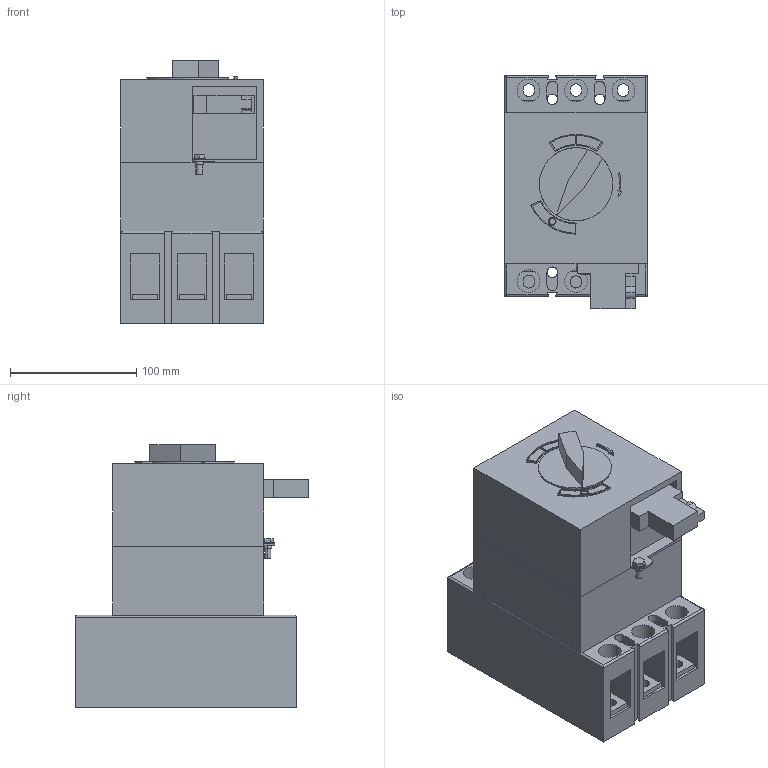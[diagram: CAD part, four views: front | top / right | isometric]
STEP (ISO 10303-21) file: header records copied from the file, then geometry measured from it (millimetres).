
FILE_DESCRIPTION (( 'STEP AP214' ), '1' );
FILE_NAME ('ÂÀ04-36 ñ ýëåêòðîìàãíèòíûì ïðèâîäîì (4).STEP', '2023-07-28T07:42:48', ( '' ), ( '' ), 'SwSTEP 2.0', 'SolidWorks 2018', '' );
FILE_SCHEMA (( 'AUTOMOTIVE_DESIGN' ));
Length unit declared in the file: millimetre
Products named in the file (1): ÂÀ04-36 ñ ýëåêòðîìàãíèòíûì ïðèâîäîì (4)
Bounding box: 112.5 x 184.95 x 208 mm (x, y, z)
Volume: 2897749.6 mm3; surface area: 207893.6 mm2
Topology: 2 solids, 2 shells, 278 faces, 706 edges, 467 vertices
Faces by surface type: plane 196, cylinder 82
Entity records: 11486 total; most frequent: CARTESIAN_POINT 1488, ORIENTED_EDGE 1412, DIRECTION 1403, EDGE_CURVE 706, LINE 543, VECTOR 543, VERTEX_POINT 467, AXIS2_PLACEMENT_3D 430
